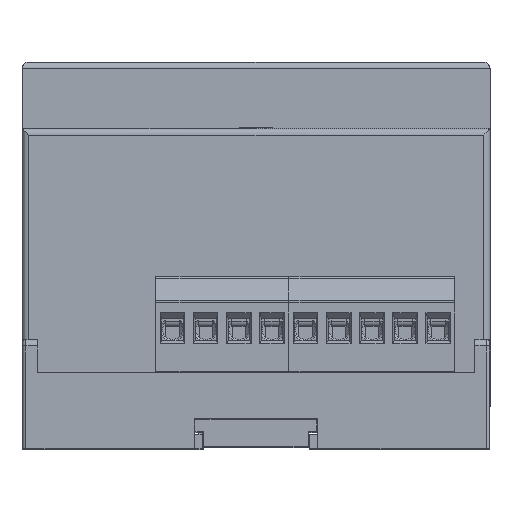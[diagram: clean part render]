
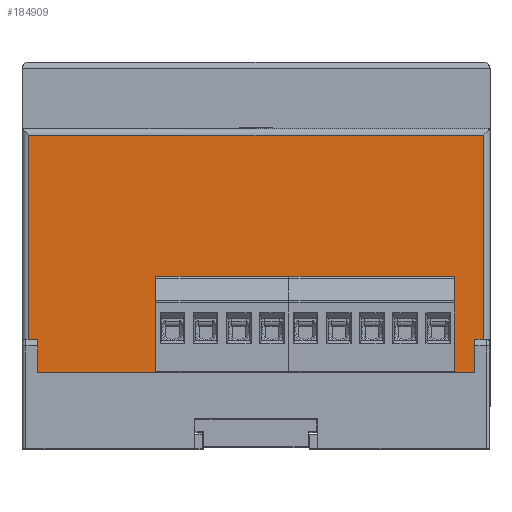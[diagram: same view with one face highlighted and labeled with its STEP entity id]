
A CAD part, top view. The second image highlights one B-rep face of the part: STEP entity #184909.
In plain terms, the highlighted planar face has unit normal (0, 0, 1).
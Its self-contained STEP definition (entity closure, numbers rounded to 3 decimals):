
#2576 = DIRECTION ( 'NONE',  ( 0., 1., 0. ) ) ;
#4037 = CARTESIAN_POINT ( 'NONE',  ( 67.5, -5., 0. ) ) ;
#6486 = VECTOR ( 'NONE', #95126, 1000. ) ;
#7841 = VERTEX_POINT ( 'NONE', #147859 ) ;
#15927 = DIRECTION ( 'NONE',  ( 0., -1., 0. ) ) ;
#16221 = LINE ( 'NONE', #144514, #57813 ) ;
#16603 = CARTESIAN_POINT ( 'NONE',  ( 1.5, -5., 0. ) ) ;
#19098 = ORIENTED_EDGE ( 'NONE', *, *, #210843, .F. ) ;
#19304 = VERTEX_POINT ( 'NONE', #72201 ) ;
#19456 = VERTEX_POINT ( 'NONE', #95402 ) ;
#19678 = ORIENTED_EDGE ( 'NONE', *, *, #130214, .F. ) ;
#20024 = LINE ( 'NONE', #68686, #197616 ) ;
#26701 = CARTESIAN_POINT ( 'NONE',  ( 69., -6.5, 0. ) ) ;
#30370 = EDGE_CURVE ( 'NONE', #92726, #196197, #20024, .T. ) ;
#30449 = CARTESIAN_POINT ( 'NONE',  ( 1.5, -6.5, 0. ) ) ;
#30480 = ORIENTED_EDGE ( 'NONE', *, *, #205131, .T. ) ;
#36331 = ORIENTED_EDGE ( 'NONE', *, *, #93838, .T. ) ;
#43063 = ORIENTED_EDGE ( 'NONE', *, *, #132722, .T. ) ;
#43398 = VERTEX_POINT ( 'NONE', #143209 ) ;
#44521 = LINE ( 'NONE', #51984, #86140 ) ;
#45883 = LINE ( 'NONE', #228714, #229001 ) ;
#45957 = CARTESIAN_POINT ( 'NONE',  ( 1., 30.8, 0. ) ) ;
#51984 = CARTESIAN_POINT ( 'NONE',  ( 1., 31.8, 0. ) ) ;
#53172 = EDGE_CURVE ( 'NONE', #196197, #19304, #142399, .T. ) ;
#55430 = VECTOR ( 'NONE', #206229, 1000. ) ;
#57417 = VECTOR ( 'NONE', #172410, 1000. ) ;
#57813 = VECTOR ( 'NONE', #2576, 1000. ) ;
#62683 = ORIENTED_EDGE ( 'NONE', *, *, #189716, .T. ) ;
#63468 = AXIS2_PLACEMENT_3D ( 'NONE', #157973, #175847, #69601 ) ;
#63774 = VECTOR ( 'NONE', #189761, 1000. ) ;
#68686 = CARTESIAN_POINT ( 'NONE',  ( 69., -5., 0. ) ) ;
#69601 = DIRECTION ( 'NONE',  ( -1., 0., 0. ) ) ;
#69880 = DIRECTION ( 'NONE',  ( 0., -1., 0. ) ) ;
#72201 = CARTESIAN_POINT ( 'NONE',  ( 69.5, -9., 0. ) ) ;
#75242 = VECTOR ( 'NONE', #110273, 1000. ) ;
#79646 = FACE_OUTER_BOUND ( 'NONE', #221500, .T. ) ;
#82229 = CARTESIAN_POINT ( 'NONE',  ( 1.5, -5., 0. ) ) ;
#86140 = VECTOR ( 'NONE', #69880, 1000. ) ;
#86640 = ORIENTED_EDGE ( 'NONE', *, *, #109889, .T. ) ;
#89475 = VECTOR ( 'NONE', #211975, 1000. ) ;
#92004 = ORIENTED_EDGE ( 'NONE', *, *, #30370, .T. ) ;
#92726 = VERTEX_POINT ( 'NONE', #26701 ) ;
#93838 = EDGE_CURVE ( 'NONE', #19456, #120305, #205261, .T. ) ;
#95126 = DIRECTION ( 'NONE',  ( 1., 0., 0. ) ) ;
#95402 = CARTESIAN_POINT ( 'NONE',  ( 69.5, 30.8, 0. ) ) ;
#98995 = CARTESIAN_POINT ( 'NONE',  ( 69., -9., 0. ) ) ;
#99842 = EDGE_CURVE ( 'NONE', #19304, #19456, #16221, .T. ) ;
#104611 = LINE ( 'NONE', #30449, #57417 ) ;
#109889 = EDGE_CURVE ( 'NONE', #150210, #7841, #45883, .T. ) ;
#110273 = DIRECTION ( 'NONE',  ( 0.707, -0.707, 0. ) ) ;
#120305 = VERTEX_POINT ( 'NONE', #45957 ) ;
#124628 = CARTESIAN_POINT ( 'NONE',  ( 1., -9., 0. ) ) ;
#130214 = EDGE_CURVE ( 'NONE', #162839, #43398, #178232, .T. ) ;
#131943 = ORIENTED_EDGE ( 'NONE', *, *, #99842, .T. ) ;
#132722 = EDGE_CURVE ( 'NONE', #137485, #43398, #104611, .T. ) ;
#134725 = CARTESIAN_POINT ( 'NONE',  ( 0., 30.8, 0. ) ) ;
#137485 = VERTEX_POINT ( 'NONE', #156333 ) ;
#142399 = LINE ( 'NONE', #183550, #6486 ) ;
#143209 = CARTESIAN_POINT ( 'NONE',  ( 3., -5., 0. ) ) ;
#144514 = CARTESIAN_POINT ( 'NONE',  ( 69.5, 31.8, 0. ) ) ;
#147859 = CARTESIAN_POINT ( 'NONE',  ( 1.5, -9., 0. ) ) ;
#150210 = VERTEX_POINT ( 'NONE', #124628 ) ;
#153200 = CARTESIAN_POINT ( 'NONE',  ( 67.5, -5., 0. ) ) ;
#155070 = ORIENTED_EDGE ( 'NONE', *, *, #53172, .T. ) ;
#156333 = CARTESIAN_POINT ( 'NONE',  ( 1.5, -6.5, 0. ) ) ;
#157973 = CARTESIAN_POINT ( 'NONE',  ( 0., 31.8, 0. ) ) ;
#158135 = DIRECTION ( 'NONE',  ( 1., 0., 0. ) ) ;
#162839 = VERTEX_POINT ( 'NONE', #153200 ) ;
#172410 = DIRECTION ( 'NONE',  ( 0.707, 0.707, 0. ) ) ;
#175847 = DIRECTION ( 'NONE',  ( 0., 0., -1. ) ) ;
#178232 = LINE ( 'NONE', #16603, #89475 ) ;
#183550 = CARTESIAN_POINT ( 'NONE',  ( 70.5, -9., 0. ) ) ;
#184909 = ADVANCED_FACE ( 'NONE', ( #79646 ), #210698, .F. ) ;
#185944 = LINE ( 'NONE', #82229, #55430 ) ;
#189716 = EDGE_CURVE ( 'NONE', #120305, #150210, #44521, .T. ) ;
#189761 = DIRECTION ( 'NONE',  ( -1., 0., 0. ) ) ;
#196197 = VERTEX_POINT ( 'NONE', #98995 ) ;
#197616 = VECTOR ( 'NONE', #15927, 1000. ) ;
#205131 = EDGE_CURVE ( 'NONE', #162839, #92726, #216681, .T. ) ;
#205261 = LINE ( 'NONE', #134725, #63774 ) ;
#206229 = DIRECTION ( 'NONE',  ( 0., -1., 0. ) ) ;
#210698 = PLANE ( 'NONE',  #63468 ) ;
#210843 = EDGE_CURVE ( 'NONE', #137485, #7841, #185944, .T. ) ;
#211975 = DIRECTION ( 'NONE',  ( -1., 0., 0. ) ) ;
#216681 = LINE ( 'NONE', #4037, #75242 ) ;
#221500 = EDGE_LOOP ( 'NONE', ( #62683, #86640, #19098, #43063, #19678, #30480, #92004, #155070, #131943, #36331 ) ) ;
#228714 = CARTESIAN_POINT ( 'NONE',  ( 1.5, -9., 0. ) ) ;
#229001 = VECTOR ( 'NONE', #158135, 1000. ) ;
